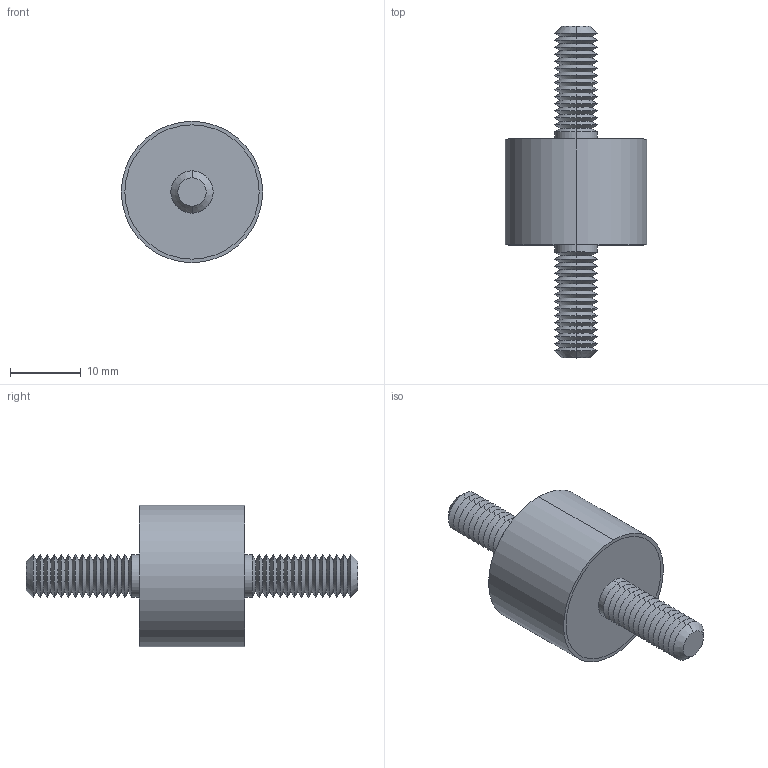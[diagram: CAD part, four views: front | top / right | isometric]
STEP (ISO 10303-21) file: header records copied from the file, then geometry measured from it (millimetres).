
FILE_DESCRIPTION (( 'STEP AP203' ), '1' );
FILE_NAME ('61040.W0204.step', '2019-09-24T22:30:33', ( '' ), ( '' ), 'SwSTEP 2.0', 'SolidWorks 2017', '' );
FILE_SCHEMA (( 'CONFIG_CONTROL_DESIGN' ));
Length unit declared in the file: millimetre
Products named in the file (4): Part2_61040.W0204; 61040.W0204; Part3_61040.W0204; Part1_61040.W0204
Assembly tree (3 placements, depth 2):
  61040.W0204
    Part1_61040.W0204
    Part2_61040.W0204
    Part3_61040.W0204
Bounding box: 20 x 47 x 20 mm (x, y, z)
Volume: 5393.9 mm3; surface area: 3778.2 mm2
Topology: 3 solids, 3 shells, 140 faces, 274 edges, 144 vertices
Faces by surface type: cone 116, cylinder 14, plane 10
Entity records: 3908 total; most frequent: DIRECTION 710, CARTESIAN_POINT 564, ORIENTED_EDGE 548, AXIS2_PLACEMENT_3D 290, EDGE_CURVE 274, VERTEX_POINT 144, EDGE_LOOP 144, CIRCLE 144
